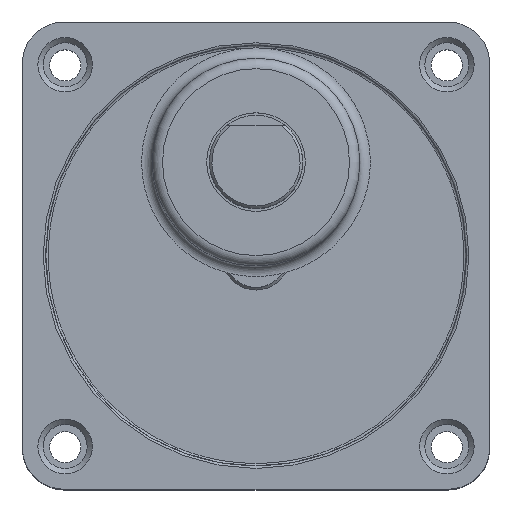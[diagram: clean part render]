
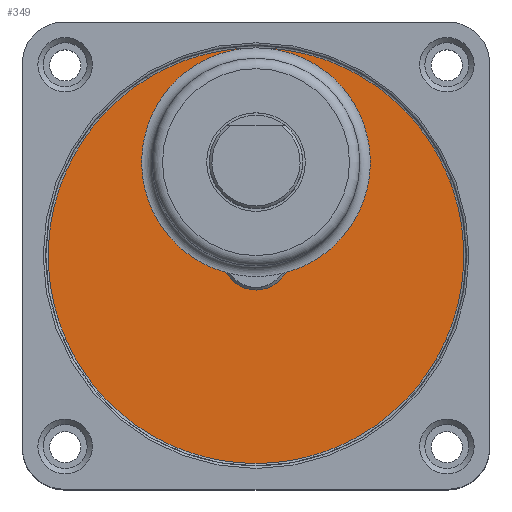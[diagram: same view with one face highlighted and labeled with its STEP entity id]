
A CAD part, top view. The second image highlights one B-rep face of the part: STEP entity #349.
In plain terms, the highlighted planar face has unit normal (0, 0, -1).
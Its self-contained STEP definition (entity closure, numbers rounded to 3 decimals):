
#298=CARTESIAN_POINT('',(-6.5,0.,3.5));
#299=VERTEX_POINT('',#298);
#300=CARTESIAN_POINT('',(0.0,0.0,3.5));
#301=DIRECTION('',(0.0,0.0,-1.0));
#302=DIRECTION('',(1.0,0.0,0.0));
#303=AXIS2_PLACEMENT_3D('',#300,#301,#302);
#304=CIRCLE('',#303,6.5);
#305=EDGE_CURVE('',#299,#299,#304,.T.);
#330=CARTESIAN_POINT('',(0.0,0.0,3.5));
#331=DIRECTION('',(0.0,0.0,1.0));
#332=DIRECTION('',(1.0,0.0,0.0));
#333=AXIS2_PLACEMENT_3D('',#330,#331,#332);
#334=PLANE('',#333);
#335=CARTESIAN_POINT('',(-41.5,0.,3.5));
#336=VERTEX_POINT('',#335);
#337=CARTESIAN_POINT('',(0.0,0.0,3.5));
#338=DIRECTION('',(0.0,0.0,-1.0));
#339=DIRECTION('',(1.0,0.0,0.0));
#340=AXIS2_PLACEMENT_3D('',#337,#338,#339);
#341=CIRCLE('',#340,41.5);
#342=EDGE_CURVE('',#336,#336,#341,.T.);
#343=ORIENTED_EDGE('',*,*,#342,.T.);
#344=EDGE_LOOP('',(#343));
#345=FACE_OUTER_BOUND('',#344,.T.);
#346=ORIENTED_EDGE('',*,*,#305,.F.);
#347=EDGE_LOOP('',(#346));
#348=FACE_BOUND('',#347,.T.);
#349=ADVANCED_FACE('',(#345,#348),#334,.F.);
